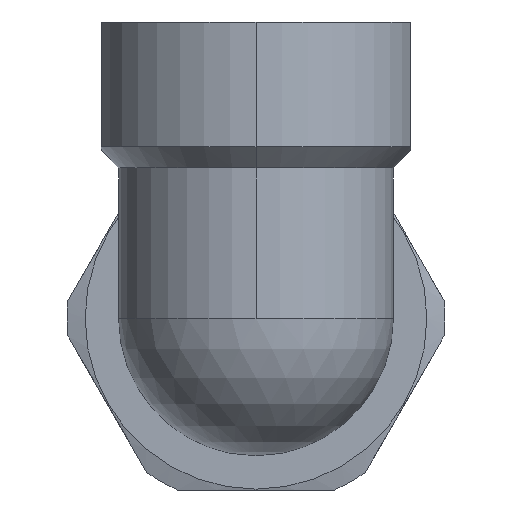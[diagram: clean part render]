
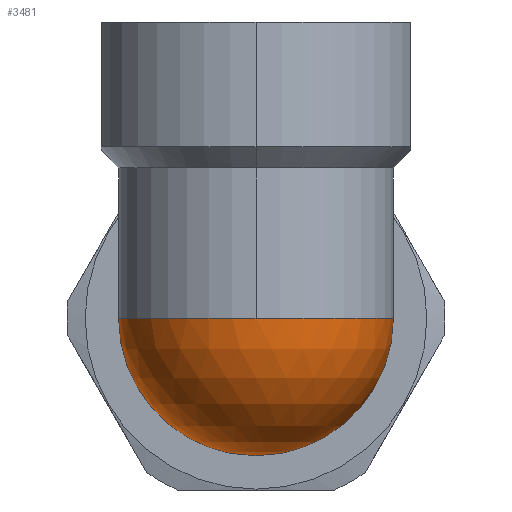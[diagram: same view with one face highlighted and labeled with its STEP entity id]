
A CAD part, left-side view. The second image highlights one B-rep face of the part: STEP entity #3481.
In plain terms, the highlighted spherical face has radius 16 mm.
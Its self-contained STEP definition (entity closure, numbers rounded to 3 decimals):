
#95 = VERTEX_POINT ( 'NONE', #949 ) ;
#96 = VERTEX_POINT ( 'NONE', #948 ) ;
#117 = EDGE_CURVE ( 'NONE', #95, #118, #1013, .T. ) ;
#118 = VERTEX_POINT ( 'NONE', #1008 ) ;
#948 = CARTESIAN_POINT ( 'NONE',  ( -39., -16., 0. ) ) ;
#949 = CARTESIAN_POINT ( 'NONE',  ( -39., 16., 0. ) ) ;
#1008 = CARTESIAN_POINT ( 'NONE',  ( -55., 0., 0. ) ) ;
#1009 = DIRECTION ( 'NONE',  ( 1., 0., 0. ) ) ;
#1010 = DIRECTION ( 'NONE',  ( 0., 0., 1. ) ) ;
#1011 = CARTESIAN_POINT ( 'NONE',  ( -39., 0., 0. ) ) ;
#1012 = AXIS2_PLACEMENT_3D ( 'NONE', #1011, #1010, #1009 ) ;
#1013 = CIRCLE ( 'NONE', #1012, 16. ) ;
#3076 = DIRECTION ( 'NONE',  ( 1., 0., 0. ) ) ;
#3077 = DIRECTION ( 'NONE',  ( 0., 0., 1. ) ) ;
#3078 = AXIS2_PLACEMENT_3D ( 'NONE', #3084, #3077, #3076 ) ;
#3079 = CIRCLE ( 'NONE', #3078, 16. ) ;
#3084 = CARTESIAN_POINT ( 'NONE',  ( -39., 0., 0. ) ) ;
#3100 = DIRECTION ( 'NONE',  ( 0., 1., 0. ) ) ;
#3101 = DIRECTION ( 'NONE',  ( 1., 0., 0. ) ) ;
#3102 = CARTESIAN_POINT ( 'NONE',  ( -39., 0., 0. ) ) ;
#3103 = AXIS2_PLACEMENT_3D ( 'NONE', #3102, #3101, #3100 ) ;
#3104 = CIRCLE ( 'NONE', #3103, 16. ) ;
#3105 = DIRECTION ( 'NONE',  ( 0., 1., 0. ) ) ;
#3106 = DIRECTION ( 'NONE',  ( 0., 0., 1. ) ) ;
#3107 = CARTESIAN_POINT ( 'NONE',  ( -39., 0., 0. ) ) ;
#3108 = AXIS2_PLACEMENT_3D ( 'NONE', #3107, #3106, #3105 ) ;
#3109 = SPHERICAL_SURFACE ( 'NONE', #3108, 16. ) ;
#3112 = FACE_OUTER_BOUND ( 'NONE', #3483, .T. ) ;
#3464 = EDGE_CURVE ( 'NONE', #118, #96, #3079, .T. ) ;
#3481 = ADVANCED_FACE ( 'NONE', ( #3112 ), #3109, .T. ) ;
#3482 = ORIENTED_EDGE ( 'NONE', *, *, #3485, .F. ) ;
#3483 = EDGE_LOOP ( 'NONE', ( #3482, #3486, #3484 ) ) ;
#3484 = ORIENTED_EDGE ( 'NONE', *, *, #117, .F. ) ;
#3485 = EDGE_CURVE ( 'NONE', #96, #95, #3104, .T. ) ;
#3486 = ORIENTED_EDGE ( 'NONE', *, *, #3464, .F. ) ;
